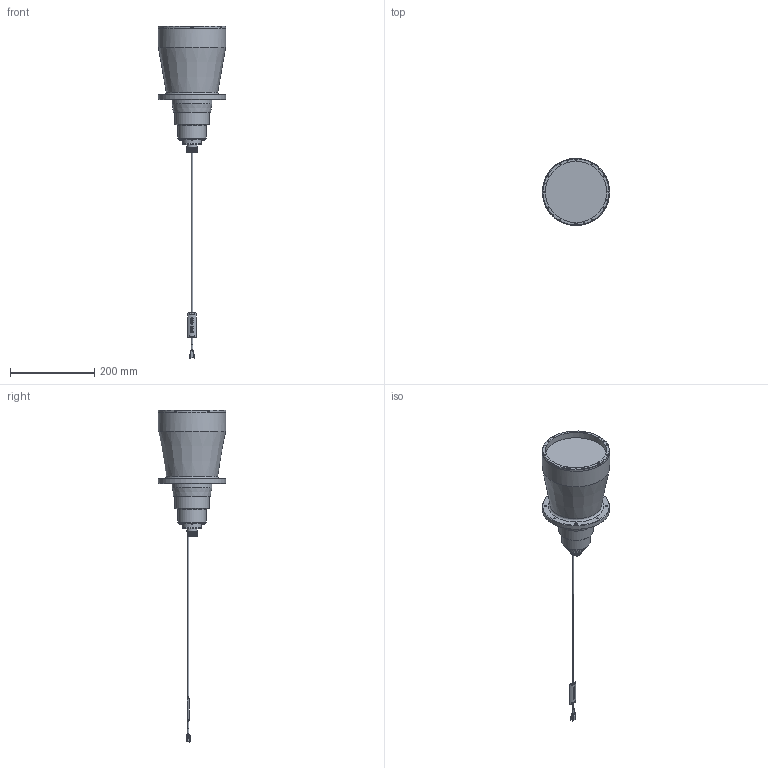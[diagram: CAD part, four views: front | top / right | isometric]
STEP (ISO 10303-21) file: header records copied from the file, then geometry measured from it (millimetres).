
FILE_DESCRIPTION (( 'STEP AP203' ), '1' );
FILE_NAME ('3d_mti-120-cw-070_a001.STEP', '2017-05-25T06:32:40', ( '' ), ( '' ), 'SwSTEP 2.0', 'SolidWorks 2014', '' );
FILE_SCHEMA (( 'CONFIG_CONTROL_DESIGN' ));
Length unit declared in the file: millimetre
Products named in the file (1): 3d_mti-120-cw-070_a001
Bounding box: 160 x 160 x 789.92 mm (x, y, z)
Volume: 3260249.8 mm3; surface area: 175035.7 mm2
Topology: 2 solids, 6 shells, 674 faces, 1788 edges, 1199 vertices
Faces by surface type: plane 443, cylinder 168, cone 39, torus 24
Full cylindrical faces by diameter (mm): 1.5 x6, 2 x14, 2.1 x4, 2.5 x3, 3.1 x1, 3.8 x7, 4 x1, 4.1 x4, 4.2 x4, 4.4 x9, 5.5 x4, 6 x4, 6.5 x4, 8 x8, 24 x1, 44 x1, 45 x1, 64 x1, 68 x1, 82 x1, 95 x1, 145.5 x1, 159.8 x1, 160 x2
Entity records: 22933 total; most frequent: CARTESIAN_POINT 6853, DIRECTION 3283, ORIENTED_EDGE 3140, EDGE_CURVE 1570, AXIS2_PLACEMENT_3D 1194, VERTEX_POINT 1119, EDGE_LOOP 935, LINE 895
